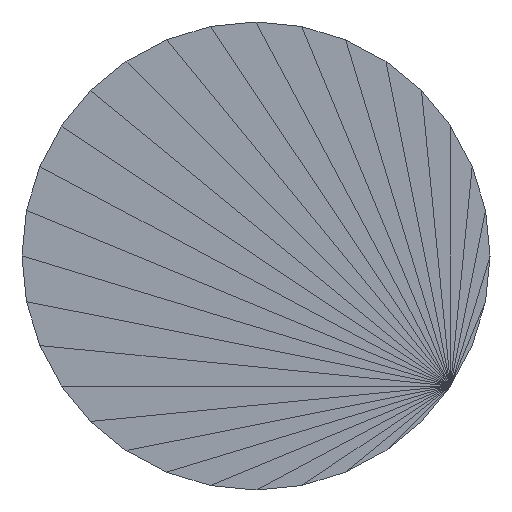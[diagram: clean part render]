
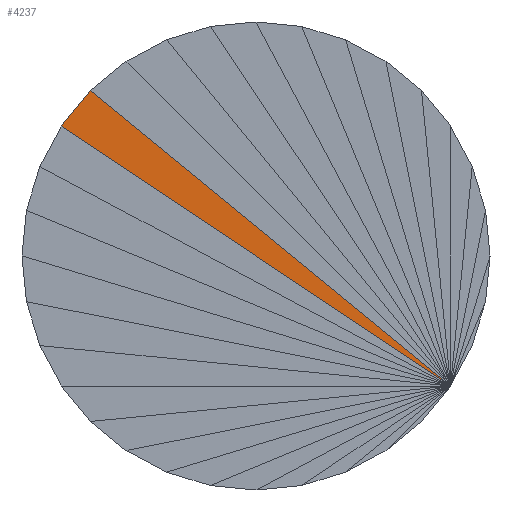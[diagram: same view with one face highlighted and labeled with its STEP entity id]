
A CAD part, left-side view. The second image highlights one B-rep face of the part: STEP entity #4237.
In plain terms, the highlighted planar face has unit normal (-1, 0, 0).
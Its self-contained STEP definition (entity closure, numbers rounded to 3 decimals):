
#1314 = VERTEX_POINT('',#1315);
#1315 = CARTESIAN_POINT('',(-250.,-96.685,345.556));
#1322 = PLANE('',#1323);
#1323 = AXIS2_PLACEMENT_3D('',#1324,#1325,#1326);
#1324 = CARTESIAN_POINT('',(-186.986,-96.999,
    345.937));
#1325 = DIRECTION('',(0.,0.773,0.634));
#1326 = DIRECTION('',(0.,-0.634,0.773));
#1340 = EDGE_CURVE('',#1314,#1341,#1343,.T.);
#1341 = VERTEX_POINT('',#1342);
#1342 = CARTESIAN_POINT('',(-250.,-97.929,347.071));
#1343 = SURFACE_CURVE('',#1344,(#1348,#1355),.PCURVE_S1.);
#1344 = LINE('',#1345,#1346);
#1345 = CARTESIAN_POINT('',(-250.,-96.685,345.556));
#1346 = VECTOR('',#1347,1.);
#1347 = DIRECTION('',(0.,-0.634,0.773));
#1348 = PCURVE('',#1322,#1349);
#1349 = DEFINITIONAL_REPRESENTATION('',(#1350),#1354);
#1350 = LINE('',#1351,#1352);
#1351 = CARTESIAN_POINT('',(-0.494,-63.014));
#1352 = VECTOR('',#1353,1.);
#1353 = DIRECTION('',(1.,0.));
#1354 = ( GEOMETRIC_REPRESENTATION_CONTEXT(2) 
PARAMETRIC_REPRESENTATION_CONTEXT() REPRESENTATION_CONTEXT('2D SPACE',''
  ) );
#1355 = PCURVE('',#1356,#1361);
#1356 = PLANE('',#1357);
#1357 = AXIS2_PLACEMENT_3D('',#1358,#1359,#1360);
#1358 = CARTESIAN_POINT('',(-250.,-104.935,340.656));
#1359 = DIRECTION('',(-1.,-0.,-0.));
#1360 = DIRECTION('',(0.,0.,-1.));
#1361 = DEFINITIONAL_REPRESENTATION('',(#1362),#1365);
#1362 = B_SPLINE_CURVE_WITH_KNOTS('',1,(#1363,#1364),.UNSPECIFIED.,.F.,
  .F.,(2,2),(0.,1.96),.PIECEWISE_BEZIER_KNOTS.);
#1363 = CARTESIAN_POINT('',(-4.9,-8.25));
#1364 = CARTESIAN_POINT('',(-6.415,-7.006));
#1365 = ( GEOMETRIC_REPRESENTATION_CONTEXT(2) 
PARAMETRIC_REPRESENTATION_CONTEXT() REPRESENTATION_CONTEXT('2D SPACE',''
  ) );
#1494 = PLANE('',#1495);
#1495 = AXIS2_PLACEMENT_3D('',#1496,#1497,#1498);
#1496 = CARTESIAN_POINT('',(-250.,-105.652,341.379));
#1497 = DIRECTION('',(-1.,-0.,-0.));
#1498 = DIRECTION('',(0.,0.,-1.));
#2026 = PLANE('',#2027);
#2027 = AXIS2_PLACEMENT_3D('',#2028,#2029,#2030);
#2028 = CARTESIAN_POINT('',(-250.,-104.369,339.809));
#2029 = DIRECTION('',(-1.,-0.,-0.));
#2030 = DIRECTION('',(0.,0.,-1.));
#4196 = VERTEX_POINT('',#4197);
#4197 = CARTESIAN_POINT('',(-250.,-113.315,334.444));
#4237 = ADVANCED_FACE('',(#4238),#1356,.T.);
#4238 = FACE_BOUND('',#4239,.T.);
#4239 = EDGE_LOOP('',(#4240,#4260,#4261));
#4240 = ORIENTED_EDGE('',*,*,#4241,.T.);
#4241 = EDGE_CURVE('',#4196,#1341,#4242,.T.);
#4242 = SURFACE_CURVE('',#4243,(#4247,#4254),.PCURVE_S1.);
#4243 = LINE('',#4244,#4245);
#4244 = CARTESIAN_POINT('',(-250.,-113.315,334.444));
#4245 = VECTOR('',#4246,1.);
#4246 = DIRECTION('',(0.,0.773,0.634));
#4247 = PCURVE('',#1356,#4248);
#4248 = DEFINITIONAL_REPRESENTATION('',(#4249),#4253);
#4249 = LINE('',#4250,#4251);
#4250 = CARTESIAN_POINT('',(6.212,8.379));
#4251 = VECTOR('',#4252,1.);
#4252 = DIRECTION('',(-0.634,-0.773));
#4253 = ( GEOMETRIC_REPRESENTATION_CONTEXT(2) 
PARAMETRIC_REPRESENTATION_CONTEXT() REPRESENTATION_CONTEXT('2D SPACE',''
  ) );
#4254 = PCURVE('',#1494,#4255);
#4255 = DEFINITIONAL_REPRESENTATION('',(#4256),#4259);
#4256 = B_SPLINE_CURVE_WITH_KNOTS('',1,(#4257,#4258),.UNSPECIFIED.,.F.,
  .F.,(2,2),(0.,19.904),.PIECEWISE_BEZIER_KNOTS.);
#4257 = CARTESIAN_POINT('',(6.935,7.662));
#4258 = CARTESIAN_POINT('',(-5.692,-7.723));
#4259 = ( GEOMETRIC_REPRESENTATION_CONTEXT(2) 
PARAMETRIC_REPRESENTATION_CONTEXT() REPRESENTATION_CONTEXT('2D SPACE',''
  ) );
#4260 = ORIENTED_EDGE('',*,*,#1340,.F.);
#4261 = ORIENTED_EDGE('',*,*,#4262,.T.);
#4262 = EDGE_CURVE('',#1314,#4196,#4263,.T.);
#4263 = SURFACE_CURVE('',#4264,(#4268,#4275),.PCURVE_S1.);
#4264 = LINE('',#4265,#4266);
#4265 = CARTESIAN_POINT('',(-250.,-96.685,345.556));
#4266 = VECTOR('',#4267,1.);
#4267 = DIRECTION('',(0.,-0.831,-0.556));
#4268 = PCURVE('',#1356,#4269);
#4269 = DEFINITIONAL_REPRESENTATION('',(#4270),#4274);
#4270 = LINE('',#4271,#4272);
#4271 = CARTESIAN_POINT('',(-4.9,-8.25));
#4272 = VECTOR('',#4273,1.);
#4273 = DIRECTION('',(0.556,0.831));
#4274 = ( GEOMETRIC_REPRESENTATION_CONTEXT(2) 
PARAMETRIC_REPRESENTATION_CONTEXT() REPRESENTATION_CONTEXT('2D SPACE',''
  ) );
#4275 = PCURVE('',#2026,#4276);
#4276 = DEFINITIONAL_REPRESENTATION('',(#4277),#4280);
#4277 = B_SPLINE_CURVE_WITH_KNOTS('',1,(#4278,#4279),.UNSPECIFIED.,.F.,
  .F.,(2,2),(0.,20.),.PIECEWISE_BEZIER_KNOTS.);
#4278 = CARTESIAN_POINT('',(-5.747,-7.684));
#4279 = CARTESIAN_POINT('',(5.364,8.945));
#4280 = ( GEOMETRIC_REPRESENTATION_CONTEXT(2) 
PARAMETRIC_REPRESENTATION_CONTEXT() REPRESENTATION_CONTEXT('2D SPACE',''
  ) );
